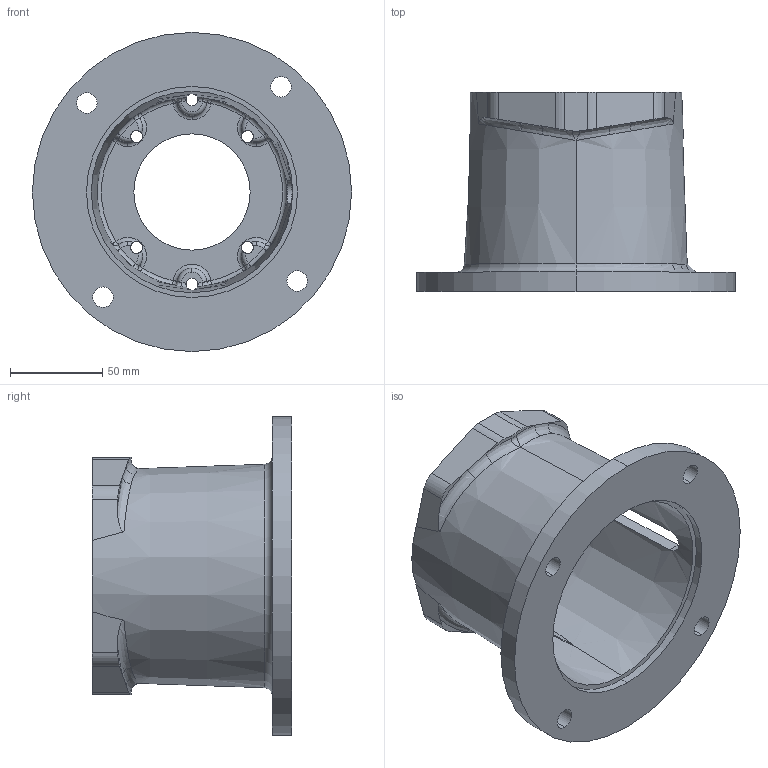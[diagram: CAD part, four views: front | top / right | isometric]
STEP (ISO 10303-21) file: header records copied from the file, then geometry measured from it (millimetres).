
FILE_DESCRIPTION (( 'STEP AP203' ), '1' );
FILE_NAME ('M0564263M.STEP', '2015-01-19T15:26:08', ( '' ), ( '' ), 'SwSTEP 2.0', 'SolidWorks 2014', '' );
FILE_SCHEMA (( 'CONFIG_CONTROL_DESIGN' ));
Length unit declared in the file: inch
Products named in the file (1): M0564263M
Bounding box: 172.97 x 107.92 x 172.97 mm (x, y, z)
Volume: 438620.2 mm3; surface area: 118090 mm2
Topology: 1 solids, 1 shells, 196 faces, 517 edges, 305 vertices
Faces by surface type: torus 51, cylinder 38, bspline 38, plane 31, sphere 24, cone 14
Entity records: 8414 total; most frequent: CARTESIAN_POINT 3756, ORIENTED_EDGE 1006, DIRECTION 964, EDGE_CURVE 503, AXIS2_PLACEMENT_3D 440, VERTEX_POINT 305, CIRCLE 281, EDGE_LOOP 216
